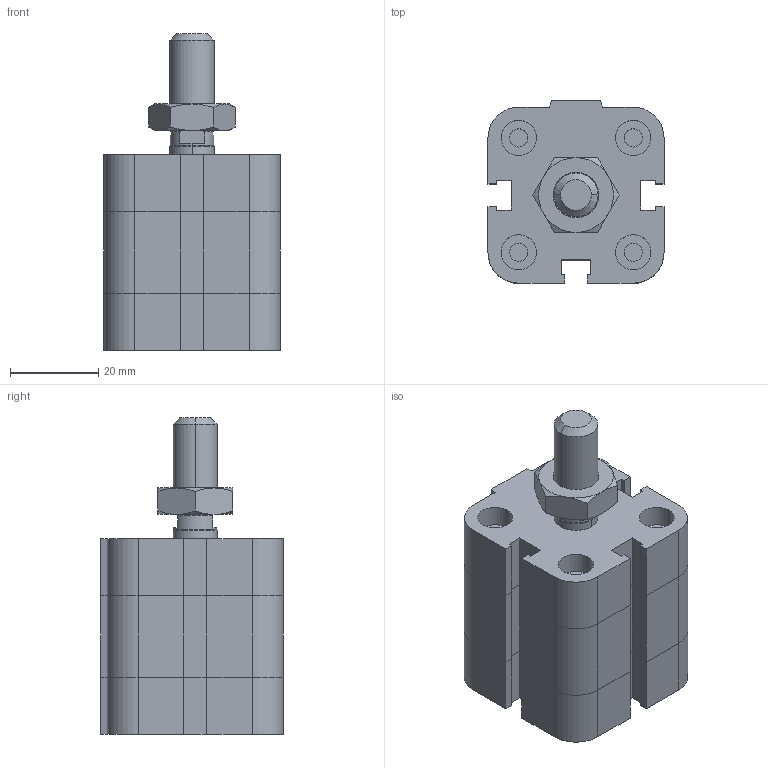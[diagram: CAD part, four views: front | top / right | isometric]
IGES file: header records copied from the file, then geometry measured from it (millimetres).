
Global section: file name: No Iges File Name specified; native system: Autodesk Inventor 2009; preprocessor: AutoDesk Inventor Iges Exporter R2009; author: rivolro1; date: 20081219.161619; units: millimetre
Bounding box: 40 x 41.5 x 72 mm (x, y, z)
Volume: 65150.2 mm3; surface area: 17602.2 mm2
Topology: 3 solids, 3 shells, 216 faces, 472 edges, 282 vertices
Faces by surface type: plane 121, bspline 37, cylinder 20, cone 20, revolution 18
